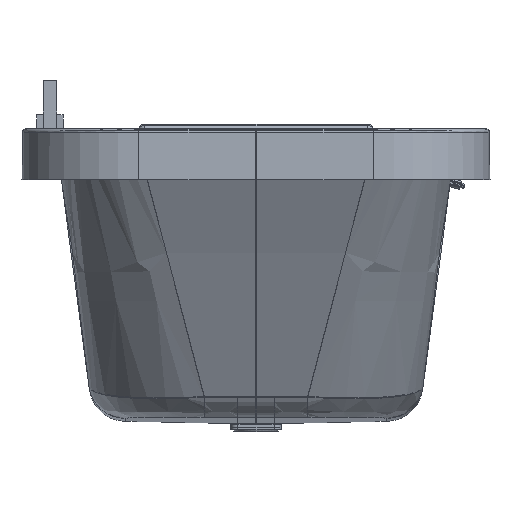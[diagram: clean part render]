
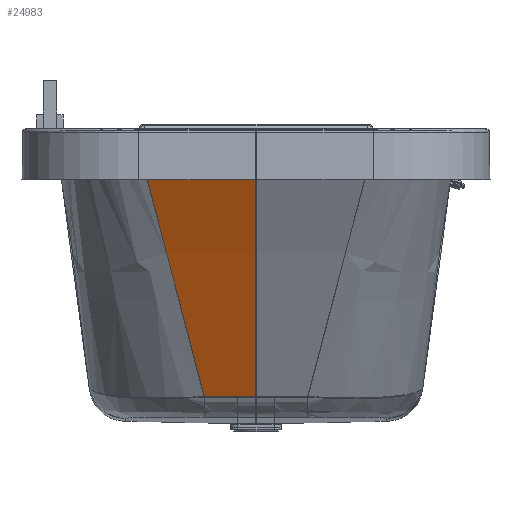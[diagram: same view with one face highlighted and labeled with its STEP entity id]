
A CAD part, left-side view. The second image highlights one B-rep face of the part: STEP entity #24983.
In plain terms, the highlighted free-form (B-spline) face has degree [2, 1] with [5, 2] control points.
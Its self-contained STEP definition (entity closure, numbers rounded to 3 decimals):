
#21742=CARTESIAN_POINT('',(-616.805,0.734,-458.835));
#21743=VERTEX_POINT('',#21742);
#21825=CARTESIAN_POINT('',(-839.7,0.734,-33.56));
#21826=VERTEX_POINT('',#21825);
#24526=CARTESIAN_POINT('',(-616.839,88.33,-458.768));
#24527=VERTEX_POINT('',#24526);
#24620=CARTESIAN_POINT('',(-616.805,31.58,-458.835));
#24621=VERTEX_POINT('',#24620);
#24629=CARTESIAN_POINT('',(-616.805,31.58,-458.835));
#24630=CARTESIAN_POINT('',(-616.805,40.278,-458.835));
#24631=CARTESIAN_POINT('',(-616.81,59.194,-458.824));
#24632=CARTESIAN_POINT('',(-616.827,78.111,-458.792));
#24633=CARTESIAN_POINT('',(-616.839,88.33,-458.768));
#24634=B_SPLINE_CURVE_WITH_KNOTS('',3,(#24629,#24630,#24631,#24632,#24633),.UNSPECIFIED.,.F.,.U.,(4,1,4),(0.0,26.223,57.033),.UNSPECIFIED.);
#24635=EDGE_CURVE('',#24621,#24527,#24634,.T.);
#24653=CARTESIAN_POINT('',(-616.805,0.734,-458.835));
#24654=DIRECTION('',(0.0,1.0,0.0));
#24655=VECTOR('',#24654,30.846);
#24656=LINE('',#24653,#24655);
#24657=EDGE_CURVE('',#21743,#24621,#24656,.T.);
#24830=CARTESIAN_POINT('',(-742.87,153.104,-211.955));
#24831=VERTEX_POINT('',#24830);
#24832=CARTESIAN_POINT('',(-616.839,88.33,-458.768));
#24833=CARTESIAN_POINT('',(-628.863,94.521,-435.169));
#24834=CARTESIAN_POINT('',(-640.887,100.713,-411.57));
#24835=CARTESIAN_POINT('',(-652.912,106.903,-387.971));
#24836=CARTESIAN_POINT('',(-664.936,113.093,-364.371));
#24837=CARTESIAN_POINT('',(-676.96,119.289,-340.773));
#24838=CARTESIAN_POINT('',(-692.626,127.353,-310.026));
#24839=CARTESIAN_POINT('',(-708.292,135.419,-279.28));
#24840=CARTESIAN_POINT('',(-711.936,137.294,-272.134));
#24841=CARTESIAN_POINT('',(-715.576,139.17,-264.986));
#24842=CARTESIAN_POINT('',(-719.21,141.045,-257.835));
#24843=CARTESIAN_POINT('',(-725.177,144.106,-246.168));
#24844=CARTESIAN_POINT('',(-731.174,147.167,-234.516));
#24845=CARTESIAN_POINT('',(-733.504,148.355,-229.999));
#24846=CARTESIAN_POINT('',(-735.839,149.542,-225.485));
#24847=CARTESIAN_POINT('',(-738.178,150.729,-220.972));
#24848=CARTESIAN_POINT('',(-740.522,151.917,-216.463));
#24849=CARTESIAN_POINT('',(-742.87,153.104,-211.955));
#24850=B_SPLINE_CURVE_WITH_KNOTS('',7,(#24832,#24833,#24834,#24835,#24836,#24837,#24838,#24839,#24840,#24841,#24842,#24843,#24844,#24845,#24846,#24847,#24848,#24849),.UNSPECIFIED.,.F.,.U.,(8,5,5,8),(0.072,0.43,0.538,0.607),.UNSPECIFIED.);
#24851=EDGE_CURVE('',#24527,#24831,#24850,.T.);
#24853=CARTESIAN_POINT('',(-839.7,200.544,-33.56));
#24854=VERTEX_POINT('',#24853);
#24855=CARTESIAN_POINT('',(-742.87,153.104,-211.955));
#24856=CARTESIAN_POINT('',(-756.269,159.879,-186.237));
#24857=CARTESIAN_POINT('',(-769.813,166.655,-160.595));
#24858=CARTESIAN_POINT('',(-783.502,173.432,-135.03));
#24859=CARTESIAN_POINT('',(-797.337,180.203,-109.542));
#24860=CARTESIAN_POINT('',(-811.314,186.983,-84.134));
#24861=CARTESIAN_POINT('',(-825.436,193.762,-58.807));
#24862=CARTESIAN_POINT('',(-839.7,200.544,-33.56));
#24863=B_SPLINE_CURVE_WITH_KNOTS('',7,(#24855,#24856,#24857,#24858,#24859,#24860,#24861,#24862),.UNSPECIFIED.,.F.,.U.,(8,8),(0.607,0.998),.UNSPECIFIED.);
#24864=EDGE_CURVE('',#24831,#24854,#24863,.T.);
#24923=CARTESIAN_POINT('',(-839.7,0.734,-33.56));
#24924=CARTESIAN_POINT('',(-776.481,0.734,-145.454));
#24925=CARTESIAN_POINT('',(-718.135,0.734,-259.964));
#24926=CARTESIAN_POINT('',(-667.47,0.734,-359.399));
#24927=CARTESIAN_POINT('',(-616.805,0.734,-458.835));
#24928=CARTESIAN_POINT('',(-839.7,200.544,-33.56));
#24929=CARTESIAN_POINT('',(-776.481,200.544,-145.454));
#24930=CARTESIAN_POINT('',(-718.135,200.544,-259.964));
#24931=CARTESIAN_POINT('',(-667.47,200.544,-359.399));
#24932=CARTESIAN_POINT('',(-616.805,200.544,-458.835));
#24940=(BOUNDED_SURFACE()B_SPLINE_SURFACE(2,1,((#24923,#24928),(#24924,#24929),(#24925,#24930),(#24926,#24931),(#24927,#24932)),.UNSPECIFIED.,.F.,.F.,.U.)B_SPLINE_SURFACE_WITH_KNOTS((3,2,3),(2,2),(0.819,259.118,483.414),(0.,1.),.UNSPECIFIED.)GEOMETRIC_REPRESENTATION_ITEM()RATIONAL_B_SPLINE_SURFACE(((1.,1.),(1.,1.),(1.0,1.0),(1.0,1.0),(1.0,1.0)))REPRESENTATION_ITEM('')SURFACE());
#24941=CARTESIAN_POINT('',(-742.87,0.734,-211.955));
#24942=VERTEX_POINT('',#24941);
#24943=CARTESIAN_POINT('',(-839.7,0.734,-33.56));
#24944=CARTESIAN_POINT('',(-789.769,0.734,-121.935));
#24945=CARTESIAN_POINT('',(-742.87,0.734,-211.955));
#24953=(BOUNDED_CURVE()B_SPLINE_CURVE(2,(#24943,#24944,#24945),.UNSPECIFIED.,.F.,.U.)B_SPLINE_CURVE_WITH_KNOTS((3,3),(0.819,204.822),.UNSPECIFIED.)CURVE()GEOMETRIC_REPRESENTATION_ITEM()RATIONAL_B_SPLINE_CURVE((1.,1.,1.))REPRESENTATION_ITEM(''));
#24954=EDGE_CURVE('',#21826,#24942,#24953,.T.);
#24955=ORIENTED_EDGE('',*,*,#24954,.F.);
#24956=CARTESIAN_POINT('',(-839.7,200.544,-33.56));
#24957=DIRECTION('',(0.0,-1.0,0.0));
#24958=VECTOR('',#24957,199.809);
#24959=LINE('',#24956,#24958);
#24960=EDGE_CURVE('',#24854,#21826,#24959,.T.);
#24961=ORIENTED_EDGE('',*,*,#24960,.F.);
#24962=ORIENTED_EDGE('',*,*,#24864,.F.);
#24963=ORIENTED_EDGE('',*,*,#24851,.F.);
#24964=ORIENTED_EDGE('',*,*,#24635,.F.);
#24965=ORIENTED_EDGE('',*,*,#24657,.F.);
#24966=CARTESIAN_POINT('',(-742.87,0.734,-211.955));
#24967=CARTESIAN_POINT('',(-730.394,0.734,-235.904));
#24968=CARTESIAN_POINT('',(-718.135,0.734,-259.964));
#24969=CARTESIAN_POINT('',(-667.47,0.734,-359.399));
#24970=CARTESIAN_POINT('',(-616.805,0.734,-458.835));
#24978=(BOUNDED_CURVE()B_SPLINE_CURVE(2,(#24966,#24967,#24968,#24969,#24970),.UNSPECIFIED.,.F.,.U.)B_SPLINE_CURVE_WITH_KNOTS((3,2,3),(204.822,259.1,483.414),.UNSPECIFIED.)CURVE()GEOMETRIC_REPRESENTATION_ITEM()RATIONAL_B_SPLINE_CURVE((1.,1.,1.0,1.0,1.0))REPRESENTATION_ITEM(''));
#24979=EDGE_CURVE('',#24942,#21743,#24978,.T.);
#24980=ORIENTED_EDGE('',*,*,#24979,.F.);
#24981=EDGE_LOOP('',(#24955,#24961,#24962,#24963,#24964,#24965,#24980));
#24982=FACE_OUTER_BOUND('',#24981,.T.);
#24983=ADVANCED_FACE('',(#24982),#24940,.F.);
